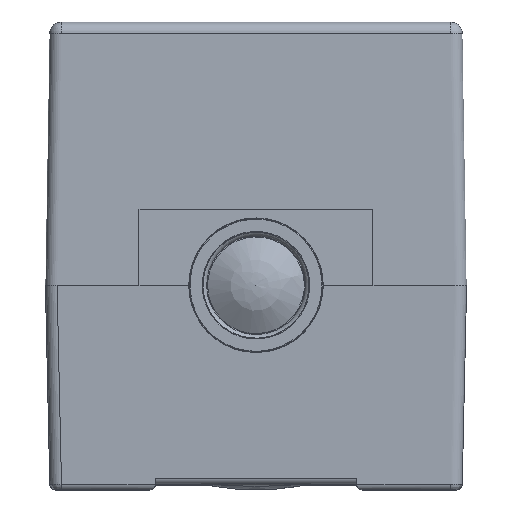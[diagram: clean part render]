
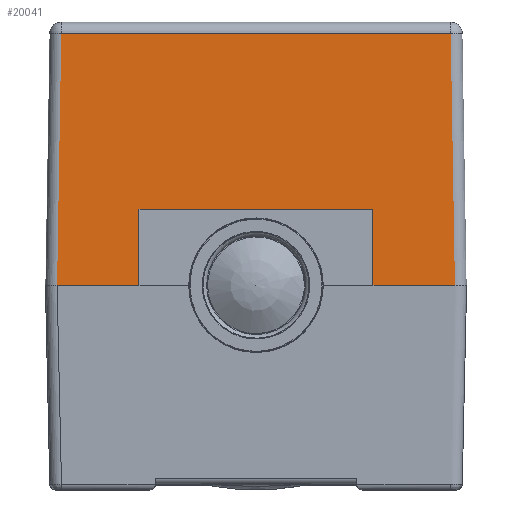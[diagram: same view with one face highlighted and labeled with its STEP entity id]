
A CAD part, front view. The second image highlights one B-rep face of the part: STEP entity #20041.
In plain terms, the highlighted planar face has unit normal (0, -1, 0.017).
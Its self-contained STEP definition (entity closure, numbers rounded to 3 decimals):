
#19598=CARTESIAN_POINT('',(-33.283,-62.783,78.033));
#19599=VERTEX_POINT('',#19598);
#19668=CARTESIAN_POINT('',(33.283,-62.783,78.033));
#19669=VERTEX_POINT('',#19668);
#19703=CARTESIAN_POINT('',(34.,-63.5,35.));
#19704=VERTEX_POINT('',#19703);
#19735=CARTESIAN_POINT('',(33.283,-62.783,78.033));
#19736=DIRECTION('',(0.017,-0.017,-1.));
#19737=VECTOR('',#19736,43.045);
#19738=LINE('',#19735,#19737);
#19739=EDGE_CURVE('',#19669,#19704,#19738,.T.);
#19779=CARTESIAN_POINT('',(-33.283,-62.783,78.033));
#19780=DIRECTION('',(1.0,0.0,0.0));
#19781=VECTOR('',#19780,66.566);
#19782=LINE('',#19779,#19781);
#19783=EDGE_CURVE('',#19599,#19669,#19782,.T.);
#19904=CARTESIAN_POINT('',(-34.,-63.5,35.));
#19905=VERTEX_POINT('',#19904);
#19912=CARTESIAN_POINT('',(-34.,-63.5,35.));
#19913=DIRECTION('',(0.017,0.017,1.));
#19914=VECTOR('',#19913,43.045);
#19915=LINE('',#19912,#19914);
#19916=EDGE_CURVE('',#19905,#19599,#19915,.T.);
#19993=CARTESIAN_POINT('',(-35.25,-62.75,80.0));
#19994=DIRECTION('',(0.,1.,-0.017));
#19995=DIRECTION('',(0.,-0.017,-1.));
#19996=AXIS2_PLACEMENT_3D('',#19993,#19994,#19995);
#19997=PLANE('',#19996);
#19998=ORIENTED_EDGE('',*,*,#19739,.F.);
#19999=ORIENTED_EDGE('',*,*,#19783,.F.);
#20000=ORIENTED_EDGE('',*,*,#19916,.F.);
#20001=CARTESIAN_POINT('',(-20.,-63.5,35.));
#20002=VERTEX_POINT('',#20001);
#20003=CARTESIAN_POINT('',(-20.,-63.5,35.));
#20004=DIRECTION('',(-1.0,0.0,0.0));
#20005=VECTOR('',#20004,14.);
#20006=LINE('',#20003,#20005);
#20007=EDGE_CURVE('',#20002,#19905,#20006,.T.);
#20008=ORIENTED_EDGE('',*,*,#20007,.F.);
#20009=CARTESIAN_POINT('',(-20.,-63.283,48.));
#20010=VERTEX_POINT('',#20009);
#20011=CARTESIAN_POINT('',(-20.,-63.5,35.));
#20012=DIRECTION('',(0.,0.017,1.));
#20013=VECTOR('',#20012,13.002);
#20014=LINE('',#20011,#20013);
#20015=EDGE_CURVE('',#20002,#20010,#20014,.T.);
#20016=ORIENTED_EDGE('',*,*,#20015,.T.);
#20017=CARTESIAN_POINT('',(20.,-63.283,48.));
#20018=VERTEX_POINT('',#20017);
#20019=CARTESIAN_POINT('',(-20.,-63.283,48.));
#20020=DIRECTION('',(1.0,0.0,0.0));
#20021=VECTOR('',#20020,40.);
#20022=LINE('',#20019,#20021);
#20023=EDGE_CURVE('',#20010,#20018,#20022,.T.);
#20024=ORIENTED_EDGE('',*,*,#20023,.T.);
#20025=CARTESIAN_POINT('',(20.,-63.5,35.));
#20026=VERTEX_POINT('',#20025);
#20027=CARTESIAN_POINT('',(20.,-63.283,48.));
#20028=DIRECTION('',(0.0,-0.017,-1.));
#20029=VECTOR('',#20028,13.002);
#20030=LINE('',#20027,#20029);
#20031=EDGE_CURVE('',#20018,#20026,#20030,.T.);
#20032=ORIENTED_EDGE('',*,*,#20031,.T.);
#20033=CARTESIAN_POINT('',(34.,-63.5,35.));
#20034=DIRECTION('',(-1.0,0.0,0.0));
#20035=VECTOR('',#20034,14.);
#20036=LINE('',#20033,#20035);
#20037=EDGE_CURVE('',#19704,#20026,#20036,.T.);
#20038=ORIENTED_EDGE('',*,*,#20037,.F.);
#20039=EDGE_LOOP('',(#19998,#19999,#20000,#20008,#20016,#20024,#20032,#20038));
#20040=FACE_OUTER_BOUND('',#20039,.T.);
#20041=ADVANCED_FACE('',(#20040),#19997,.F.);
